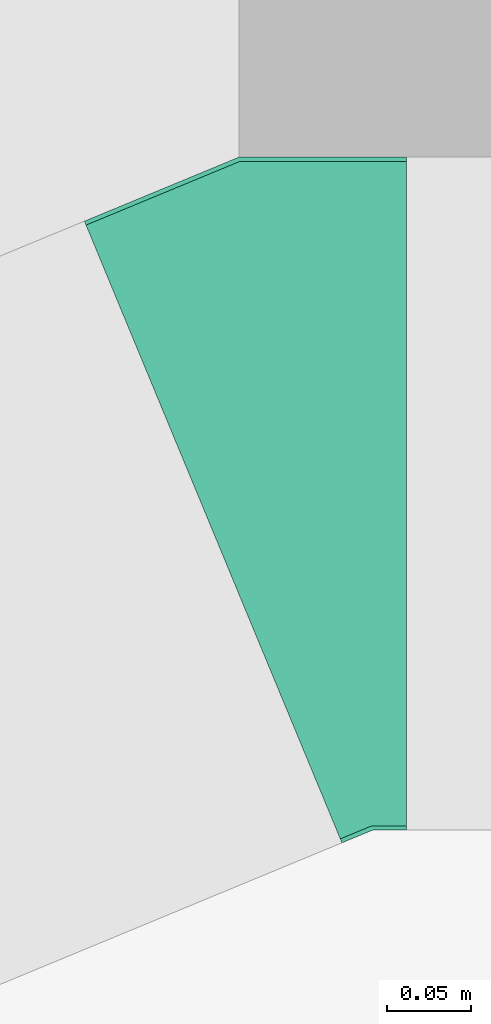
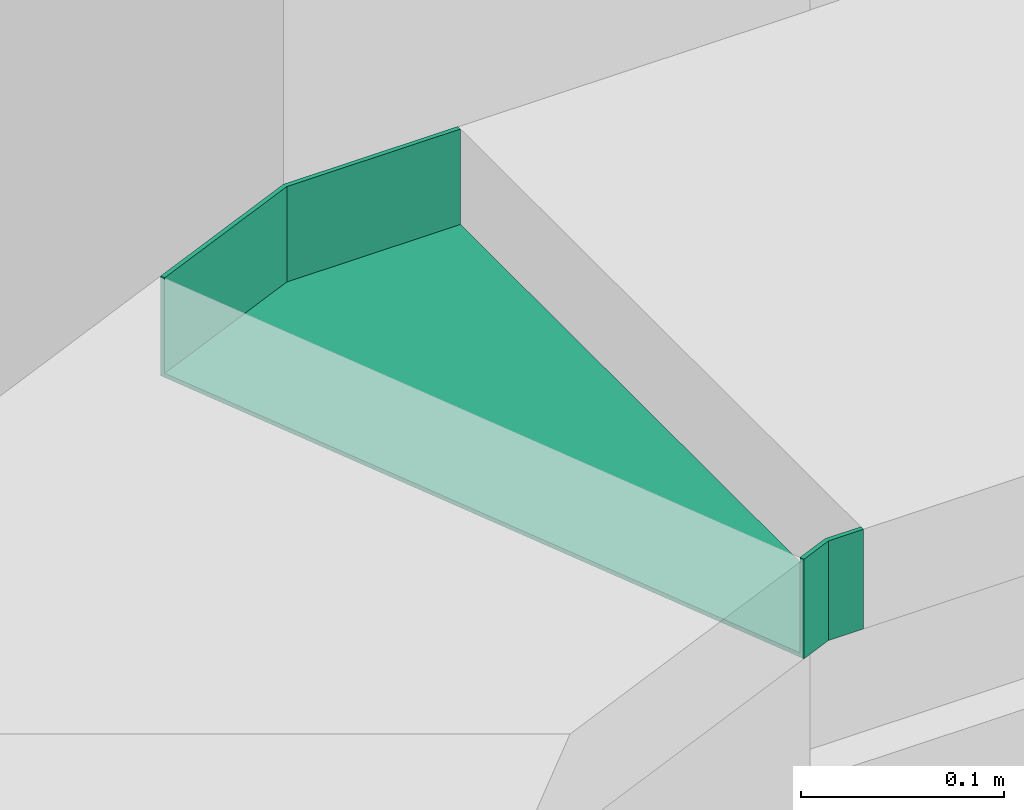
# One storey, part 270 of 302: 1 flow fitting.
"""IFC2X3 building model written with IfcOpenShell, lengths in metres."""

from ifc_helpers import new_model, entity, si_unit, converted_unit, derived_unit, direction, frame, origin, place, context, subcontext, project, spatial, faceted_brep, source, transform, mapped, material, type_object, type_shapes, element, save


model = new_model("IFC2X3")

# Units and contexts
model_context = context("Model", 3, precision=1e-05, world=origin(), true_north=direction((6.12303176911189e-17, 1.0)))
body_context = subcontext(model_context, "Body", "Model", "MODEL_VIEW")
ifc_project = project(units=[si_unit("LENGTHUNIT", "METRE"), si_unit("AREAUNIT", "SQUARE_METRE"), si_unit("VOLUMEUNIT", "CUBIC_METRE"), converted_unit("PLANEANGLEUNIT", "DEGREE", entity("IfcRatioMeasure", 0.0174532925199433), si_unit("PLANEANGLEUNIT", "RADIAN"), dimensions=[0, 0, 0, 0, 0, 0, 0]), si_unit("MASSUNIT", "GRAM", prefix="KILO"), derived_unit("MASSDENSITYUNIT", [(si_unit("MASSUNIT", "GRAM", prefix="KILO"), 1), (si_unit("LENGTHUNIT", "METRE"), -3)]), derived_unit("MOMENTOFINERTIAUNIT", [(si_unit("LENGTHUNIT", "METRE"), 4)]), si_unit("TIMEUNIT", "SECOND"), si_unit("FREQUENCYUNIT", "HERTZ"), si_unit("THERMODYNAMICTEMPERATUREUNIT", "DEGREE_CELSIUS"), derived_unit("THERMALTRANSMITTANCEUNIT", [(si_unit("MASSUNIT", "GRAM", prefix="KILO"), 1), (si_unit("THERMODYNAMICTEMPERATUREUNIT", "KELVIN"), -1), (si_unit("TIMEUNIT", "SECOND"), -3)]), derived_unit("VOLUMETRICFLOWRATEUNIT", [(si_unit("LENGTHUNIT", "METRE"), 3), (si_unit("TIMEUNIT", "SECOND"), -1)]), si_unit("ELECTRICCURRENTUNIT", "AMPERE"), si_unit("ELECTRICVOLTAGEUNIT", "VOLT"), si_unit("POWERUNIT", "WATT"), si_unit("FORCEUNIT", "NEWTON", prefix="KILO"), si_unit("ILLUMINANCEUNIT", "LUX"), si_unit("LUMINOUSFLUXUNIT", "LUMEN"), si_unit("LUMINOUSINTENSITYUNIT", "CANDELA"), derived_unit("USERDEFINED", [(si_unit("MASSUNIT", "GRAM", prefix="KILO"), -1), (si_unit("LENGTHUNIT", "METRE"), -2), (si_unit("TIMEUNIT", "SECOND"), 3), (si_unit("LUMINOUSFLUXUNIT", "LUMEN"), 1)]), derived_unit("LINEARVELOCITYUNIT", [(si_unit("LENGTHUNIT", "METRE"), 1), (si_unit("TIMEUNIT", "SECOND"), -1)]), si_unit("PRESSUREUNIT", "PASCAL"), derived_unit("USERDEFINED", [(si_unit("LENGTHUNIT", "METRE"), -2), (si_unit("MASSUNIT", "GRAM", prefix="KILO"), 1), (si_unit("TIMEUNIT", "SECOND"), -2)]), derived_unit("LINEARFORCEUNIT", [(si_unit("MASSUNIT", "GRAM", prefix="KILO"), 1), (si_unit("LENGTHUNIT", "METRE"), 1), (si_unit("TIMEUNIT", "SECOND"), -2), (si_unit("LENGTHUNIT", "METRE"), -1)]), derived_unit("PLANARFORCEUNIT", [(si_unit("MASSUNIT", "GRAM", prefix="KILO"), 1), (si_unit("LENGTHUNIT", "METRE"), 1), (si_unit("TIMEUNIT", "SECOND"), -2), (si_unit("LENGTHUNIT", "METRE"), -2)])], contexts=[model_context])

# Site, building, storey
site_placement = place(None, origin())
site = spatial("IfcSite", under=ifc_project, at=site_placement, Name="Default", CompositionType="ELEMENT")
building_placement = place(site_placement, origin())
building = spatial("IfcBuilding", under=site, at=building_placement, CompositionType="ELEMENT")
storey_placement = place(building_placement, frame((0.0, 0.0, -1.3)))
storey = spatial("IfcBuildingStorey", under=building, at=storey_placement, Name="00_EG", CompositionType="ELEMENT", Elevation=-1.3)

# Flow fitting
ifc_material = material(Name="<Unnamed>")
cable_carrier_fitting_type = type_object("IfcCableCarrierFittingType", Name="Kabeltrasse - Bogen (Ecke) reduzierend:Standard", PredefinedType="NOTDEFINED", material=ifc_material)
shared_shape = source(origin(), body_context, "Body", "Brep", [
    faceted_brep([(-0.059673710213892, -0.200000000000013, -0.0300000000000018), (-0.059673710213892, -0.200000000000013, 0.0299999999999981), (-0.059673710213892, -0.197460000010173, 0.0299999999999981), (-0.059673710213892, -0.197460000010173, -0.0274600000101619), (-0.0596737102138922, 0.197460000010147, -0.0274600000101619), (-0.0596737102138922, 0.197460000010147, 0.0299999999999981), (-0.0596737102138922, 0.199999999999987, 0.0299999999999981), (-0.0596737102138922, 0.199999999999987, -0.0300000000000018), (0.131668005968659, -0.161939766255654, -0.0300000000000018), (-0.0214053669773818, 0.207612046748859, -0.0300000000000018), (-0.0214053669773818, 0.207612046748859, 0.0299999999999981), (-0.0204333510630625, 0.205265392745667, 0.0299999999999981), (-0.0204333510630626, 0.205265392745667, -0.0274600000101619), (0.130695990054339, -0.159593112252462, -0.0274600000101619), (0.130695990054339, -0.159593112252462, 0.0299999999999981), (0.131668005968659, -0.161939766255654, 0.0299999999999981), (0.0397824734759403, -0.200000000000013, -0.0300000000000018), (0.0397824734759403, -0.200000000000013, 0.0299999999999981), (0.0392772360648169, -0.197460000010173, 0.0299999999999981), (0.0392772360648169, -0.197460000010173, -0.0274600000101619), (-0.0392772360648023, 0.197460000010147, -0.0274600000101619), (-0.0392772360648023, 0.197460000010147, 0.0299999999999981), (-0.0397824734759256, 0.199999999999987, 0.0299999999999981), (-0.0397824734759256, 0.199999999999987, -0.0300000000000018)], [[[0, 1, 2, 3, 4, 5, 6, 7]], [[8, 9, 10, 11, 12, 13, 14, 15]], [[1, 0, 16, 17]], [[2, 1, 17, 15, 14, 18]], [[3, 2, 18, 19]], [[4, 3, 19, 13, 12, 20]], [[5, 4, 20, 21]], [[6, 5, 21, 11, 10, 22]], [[7, 6, 22, 23]], [[0, 7, 23, 9, 8, 16]], [[17, 16, 8, 15]], [[19, 18, 14, 13]], [[21, 20, 12, 11]], [[23, 22, 10, 9]]]),
])
type_shapes(cable_carrier_fitting_type, [shared_shape])
flow_fitting_placement = place(storey_placement, frame((-263.716331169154, 45.0580889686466, 4.85), z_axis=(0.0, 0.0, 1.0), x_axis=(-1.0, 0.0, 0.0)))
element("IfcFlowFitting", 1, at=flow_fitting_placement, inside=storey, type_object=cable_carrier_fitting_type, material=ifc_material, Name="Kabeltrasse - Bogen (Ecke) reduzierend:Standard", ObjectType="Kabeltrasse - Bogen (Ecke) reduzierend:Standard", context=body_context, shape_type="MappedRepresentation", body=[
    mapped(shared_shape, transform((0.0, 0.0, 0.0), scale=1.0)),
])

save(model, "model.ifc")
